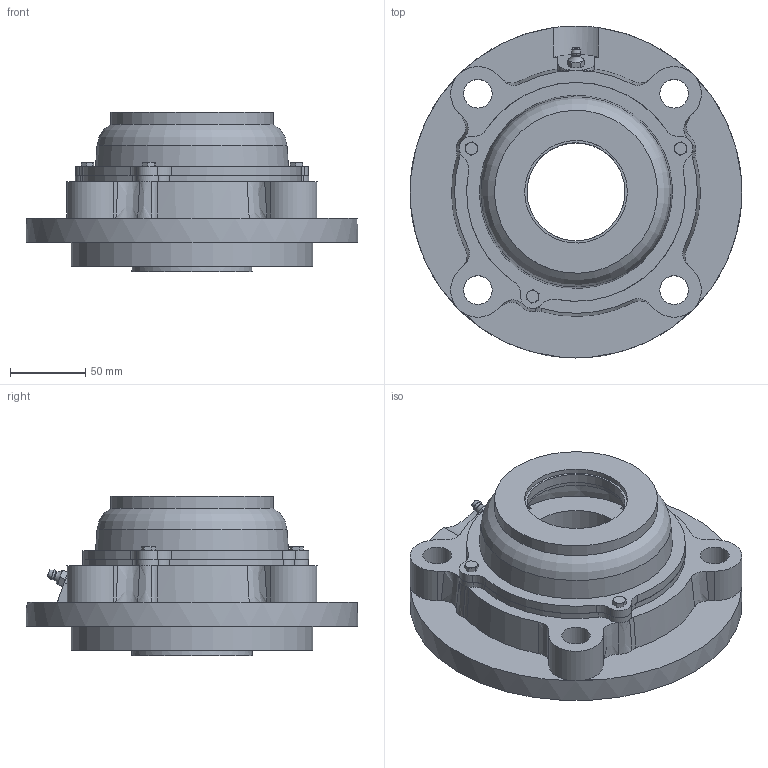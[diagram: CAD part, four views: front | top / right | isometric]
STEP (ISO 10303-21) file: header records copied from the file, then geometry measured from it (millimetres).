
FILE_DESCRIPTION((''),'2;1');
FILE_NAME('\\Ts-tgl068\j-cad-d-base\00.3DCADデータ作成フォルダ\02.フランジ形\CUKFC200\CUKFC215C+H.stp','2014-05-22T08:55:35',('btec_1106_2'),(''),'Autodesk Inventor 2012','Autodesk Inventor 2012','');
FILE_SCHEMA(('AUTOMOTIVE_DESIGN { 1 0 10303 214 1 1 1 1 }'));
Length unit declared in the file: millimetre
Products named in the file (7): CUKFC200C+H; CFC215; UK215; G1; 215C65R; 215C65; M5X0
Assembly tree (8 placements, depth 3):
  CUKFC200C+H
    CFC215
    UK215
    G1
    215C65R
      215C65
      M5X0  x3
Bounding box: 220 x 220 x 105.5 mm (x, y, z)
Volume: 1321427.3 mm3; surface area: 242664.5 mm2
Topology: 7 solids, 7 shells, 325 faces, 803 edges, 510 vertices
Faces by surface type: plane 128, cylinder 96, cone 79, bspline 14, sphere 4, torus 4
Full cylindrical faces by diameter (mm): 4.134 x3, 5 x3, 6 x3, 8.566 x1, 9.728 x1, 19 x4, 65 x2, 68 x2, 75 x1, 91.5 x2, 108 x1, 130 x1, 135 x2, 160 x1, 220 x1
Entity records: 9111 total; most frequent: CARTESIAN_POINT 2386, DIRECTION 1365, ORIENTED_EDGE 1342, EDGE_CURVE 671, AXIS2_PLACEMENT_3D 570, VERTEX_POINT 447, EDGE_LOOP 374, FACE_OUTER_BOUND 291
